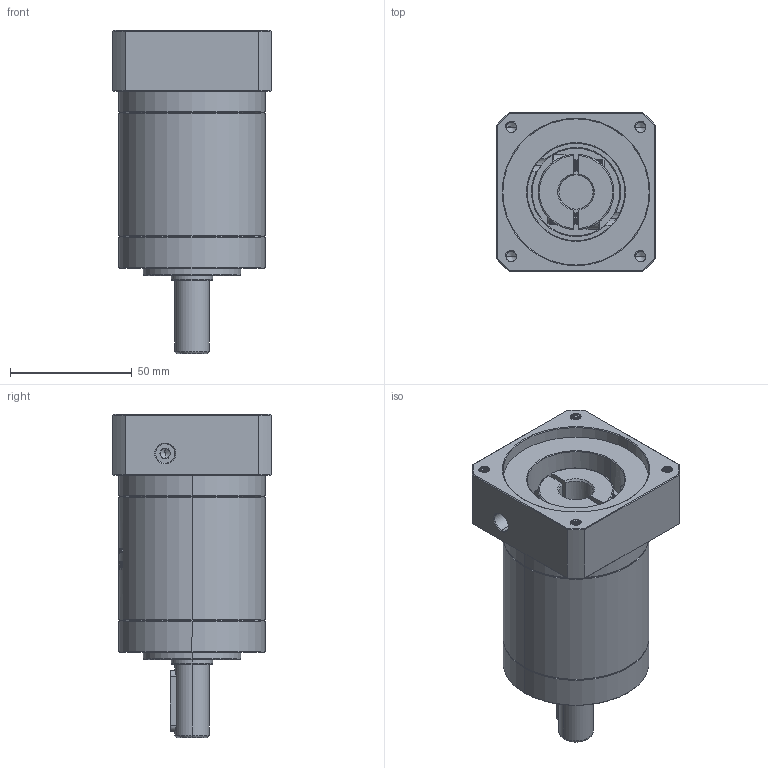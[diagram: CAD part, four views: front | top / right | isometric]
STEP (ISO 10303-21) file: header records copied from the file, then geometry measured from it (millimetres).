
FILE_DESCRIPTION (( 'STEP AP214' ), '1' );
FILE_NAME ('ZE60-D14-L2-14-60-75-M5.STEP', '2022-04-17T15:32:58', ( '' ), ( 'Microsoft' ), 'SwSTEP 2.0', 'SolidWorks 2016', '' );
FILE_SCHEMA (( 'AUTOMOTIVE_DESIGN' ));
Length unit declared in the file: millimetre
Products named in the file (1): ZE60-D14-L2-14-60-75-M5
Bounding box: 65 x 65 x 132.5 mm (x, y, z)
Volume: 274983.4 mm3; surface area: 48706 mm2
Topology: 6 solids, 6 shells, 1743 faces, 4739 edges, 3069 vertices
Faces by surface type: plane 737, cylinder 455, bspline 311, cone 220, torus 20
Entity records: 105345 total; most frequent: CARTESIAN_POINT 46699, ORIENTED_EDGE 9434, DIRECTION 6731, EDGE_CURVE 4717, VERTEX_POINT 3069, VECTOR 2363, LINE 2363, AXIS2_PLACEMENT_3D 2184
